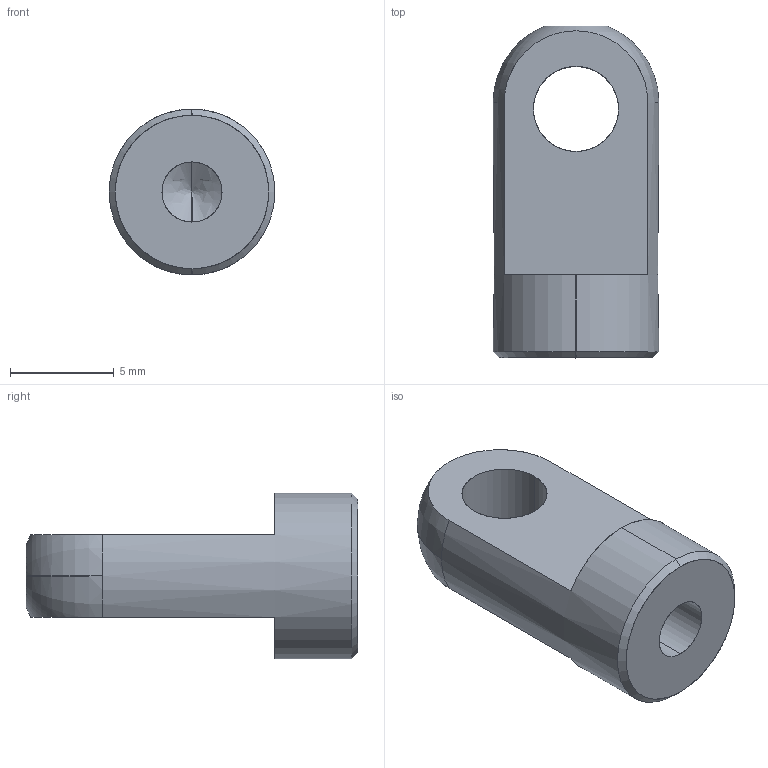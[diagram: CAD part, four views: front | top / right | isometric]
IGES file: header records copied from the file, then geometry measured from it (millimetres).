
Start section: SolidWorks IGES file using analytic representation for surfaces
Bounding box: 8 x 16 x 8 mm (x, y, z)
Surface area: 519 mm2 (no closed solid volume)
Topology: 0 solids, 0 shells, 18 faces, 308 edges, 306 vertices
Faces by surface type: revolution 12, bspline 6
